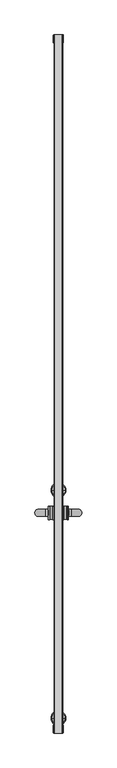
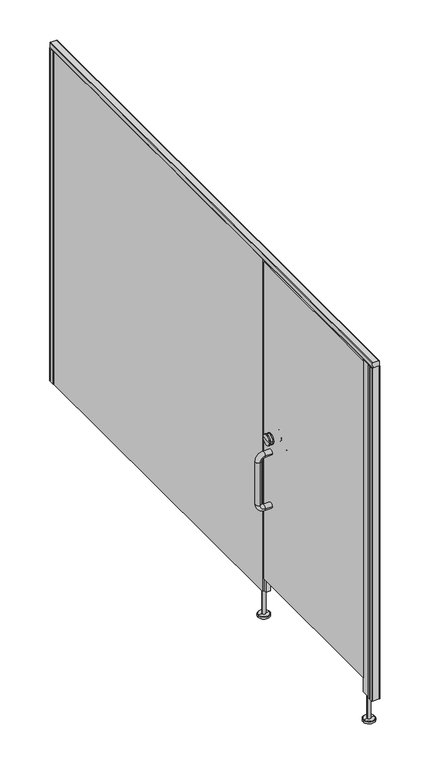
"""IFC4 building model written with IfcOpenShell, lengths in millimetres: proxy geometry, Partition_EuroStyle-Bradley_Corp-ADA_STD_Alcove-LOFT : Partition_EuroStyle-Bradley_Corp-ADA_STD_Alcove-LOFT."""

from ifc_helpers import new_model, si_unit, point, frame, frame_2d, origin, place, context, project, spatial, polyline, circle_curve, ellipse_curve, trimmed, segment, composite_curve, outline, extrude, source, transform, mapped, element, save
from ifc_brep_helpers import plane_surface, cylinder_surface, revolved_surface, advanced_brep


def specialty_equipment_249e6da1(model_context):
    return source(origin(), model_context, "Body", "SolidModel", [
        advanced_brep(
        [(1524.0, -2031.8, 975.0), (1524.0, -2001.8, 975.0), (1524.0, -2031.8, 679.0), (1524.0, -2001.8, 679.0), (1488.0, -2001.8, 975.0), (1488.0, -2031.8, 975.0), (1458.0, -2001.8, 945.0), (1458.0, -2001.8, 709.0), (1458.0, -2031.8, 709.0), (1458.0, -2031.8, 945.0), (1488.0, -2001.8, 679.0), (1488.0, -2031.8, 679.0)],
        [
            (0, 1, circle_curve(frame((1524.0, -2016.8, 975.0), z_axis=(1.0, 0.0, 0.0), x_axis=(0.0, 1.0, 0.0)), 15.0)),
            (1, 0, circle_curve(frame((1524.0, -2016.8, 975.0), z_axis=(1.0, 0.0, 0.0), x_axis=(0.0, 1.0, 0.0)), 15.0)),
            (2, 3, circle_curve(frame((1524.0, -2016.8, 679.0), z_axis=(1.0, 0.0, 0.0), x_axis=(0.0, 1.0, 0.0)), 15.0)),
            (3, 2, circle_curve(frame((1524.0, -2016.8, 679.0), z_axis=(1.0, 0.0, 0.0), x_axis=(0.0, 1.0, 0.0)), 15.0)),
            (1, 4),
            (4, 5, circle_curve(frame((1488.0, -2016.8, 975.0), z_axis=(1.0, 0.0, 0.0), x_axis=(0.0, 1.0, 0.0)), 15.0)),
            (5, 0),
            (5, 4, circle_curve(frame((1488.0, -2016.8, 975.0), z_axis=(1.0, 0.0, 0.0), x_axis=(0.0, 1.0, 0.0)), 15.0)),
            (6, 7),
            (7, 8, circle_curve(frame((1458.0, -2016.8, 709.0), z_axis=(0.0, 0.0, 1.0), x_axis=(0.0, 1.0, 0.0)), 15.0)),
            (8, 9),
            (9, 6, circle_curve(frame((1458.0, -2016.8, 945.0), z_axis=(0.0, 0.0, -1.0), x_axis=(0.0, 1.0, 0.0)), 15.0)),
            (8, 7, circle_curve(frame((1458.0, -2016.8, 709.0), z_axis=(0.0, 0.0, 1.0), x_axis=(0.0, 1.0, 0.0)), 15.0)),
            (6, 9, circle_curve(frame((1458.0, -2016.8, 945.0), z_axis=(0.0, 0.0, -1.0), x_axis=(0.0, 1.0, 0.0)), 15.0)),
            (10, 3),
            (2, 11),
            (11, 10, circle_curve(frame((1488.0, -2016.8, 679.0), z_axis=(1.0, 0.0, 0.0), x_axis=(0.0, 1.0, 0.0)), 15.0)),
            (10, 11, circle_curve(frame((1488.0, -2016.8, 679.0), z_axis=(1.0, 0.0, 0.0), x_axis=(0.0, 1.0, 0.0)), 15.0)),
            (9, 5, circle_curve(frame((1488.0, -2031.8, 945.0), z_axis=(0.0, 1.0, 0.0), x_axis=(0.0, 0.0, 1.0)), 30.0)),
            (4, 6, circle_curve(frame((1488.0, -2001.8, 945.0), z_axis=(0.0, -1.0, 0.0), x_axis=(0.0, 0.0, 1.0)), 30.0)),
            (11, 8, circle_curve(frame((1488.0, -2031.8, 709.0), z_axis=(0.0, 1.0, 0.0), x_axis=(-1.0, 0.0, 0.0)), 30.0)),
            (7, 10, circle_curve(frame((1488.0, -2001.8, 709.0), z_axis=(0.0, -1.0, 0.0), x_axis=(-1.0, 0.0, 0.0)), 30.0)),
        ],
        [
            plane_surface(frame((1524.0, -2016.8, 975.0), z_axis=(1.0, 0.0, 0.0), x_axis=(0.0, 1.0, 0.0))),
            plane_surface(frame((1524.0, -2016.8, 679.0), z_axis=(1.0, 0.0, 0.0), x_axis=(0.0, 1.0, 0.0))),
            cylinder_surface(frame((1524.0, -2016.8, 975.0), z_axis=(1.0, 0.0, 0.0), x_axis=(0.0, 1.0, 0.0)), 15.0),
            cylinder_surface(frame((1458.0, -2016.8, 945.0), z_axis=(0.0, 0.0, 1.0), x_axis=(0.0, 1.0, 0.0)), 15.0),
            cylinder_surface(frame((1488.0, -2016.8, 679.0), z_axis=(-1.0, 0.0, 0.0), x_axis=(0.0, 1.0, 0.0)), 15.0),
            revolved_surface(trimmed(ellipse_curve(frame((1488.0, -2016.8, 975.0), z_axis=(-1.0, 0.0, 0.0), x_axis=(0.0, 1.0, 0.0)), 15.0, 15.0), [point((1488.0, -2031.8, 975.0))], [point((1488.0, -2001.8, 975.0))], True, "CARTESIAN"), (1488.0, -2016.8, 945.0), (0.0, 1.0, 0.0)),
            revolved_surface(trimmed(ellipse_curve(frame((1488.0, -2016.8, 975.0), z_axis=(-1.0, 0.0, 0.0), x_axis=(0.0, 1.0, 0.0)), 15.0, 15.0), [point((1488.0, -2001.8, 975.0))], [point((1488.0, -2031.8, 975.0))], True, "CARTESIAN"), (1488.0, -2016.8, 945.0), (0.0, 1.0, 0.0)),
            revolved_surface(trimmed(ellipse_curve(frame((1458.0, -2016.8, 709.0), z_axis=(0.0, 0.0, -1.0), x_axis=(0.0, 1.0, 0.0)), 15.0, 15.0), [point((1458.0, -2031.8, 709.0))], [point((1458.0, -2001.8, 709.0))], True, "CARTESIAN"), (1488.0, -2016.8, 709.0), (0.0, 1.0, 0.0)),
            revolved_surface(trimmed(ellipse_curve(frame((1458.0, -2016.8, 709.0), z_axis=(0.0, 0.0, -1.0), x_axis=(0.0, 1.0, 0.0)), 15.0, 15.0), [point((1458.0, -2001.8, 709.0))], [point((1458.0, -2031.8, 709.0))], True, "CARTESIAN"), (1488.0, -2016.8, 709.0), (0.0, 1.0, 0.0)),
        ],
        [
            (0, [[1, 2]]),
            (1, [[3, 4]]),
            (2, [[5, 6, 7, -2]]),
            (2, [[-7, 8, -5, -1]]),
            (3, [[9, 10, 11, 12]]),
            (3, [[-11, 13, -9, 14]]),
            (4, [[15, -3, 16, 17]]),
            (4, [[-16, -4, -15, 18]]),
            (5, [[-12, 19, -6, 20]]),
            (6, [[-14, -20, -8, -19]]),
            (7, [[-17, 21, -10, 22]]),
            (8, [[-18, -22, -13, -21]]),
        ],
    ),
        advanced_brep(
        [(1560.0203251, -2031.8, 975.0), (1560.0203251, -2001.8, 975.0), (1560.0203251, -2031.8, 679.0), (1560.0203251, -2001.8, 679.0), (1596.0203251, -2031.8, 975.0), (1596.0203251, -2001.8, 975.0), (1626.0203251, -2001.8, 945.0), (1626.0203251, -2031.8, 945.0), (1626.0203251, -2031.8, 709.0), (1626.0203251, -2001.8, 709.0), (1596.0203251, -2001.8, 679.0), (1596.0203251, -2031.8, 679.0)],
        [
            (0, 1, circle_curve(frame((1560.0203251, -2016.8, 975.0), z_axis=(-1.0, 0.0, 0.0), x_axis=(0.0, 1.0, 0.0)), 15.0)),
            (1, 0, circle_curve(frame((1560.0203251, -2016.8, 975.0), z_axis=(-1.0, 0.0, 0.0), x_axis=(0.0, 1.0, 0.0)), 15.0)),
            (2, 3, circle_curve(frame((1560.0203251, -2016.8, 679.0), z_axis=(-1.0, 0.0, 0.0), x_axis=(0.0, 1.0, 0.0)), 15.0)),
            (3, 2, circle_curve(frame((1560.0203251, -2016.8, 679.0), z_axis=(-1.0, 0.0, 0.0), x_axis=(0.0, 1.0, 0.0)), 15.0)),
            (0, 4),
            (4, 5, circle_curve(frame((1596.0203251, -2016.8, 975.0), z_axis=(-1.0, 0.0, 0.0), x_axis=(0.0, 1.0, 0.0)), 15.0)),
            (5, 1),
            (5, 4, circle_curve(frame((1596.0203251, -2016.8, 975.0), z_axis=(-1.0, 0.0, 0.0), x_axis=(0.0, 1.0, 0.0)), 15.0)),
            (6, 7, circle_curve(frame((1626.0203251, -2016.8, 945.0), z_axis=(0.0, 0.0, -1.0), x_axis=(0.0, 1.0, 0.0)), 15.0)),
            (7, 8),
            (8, 9, circle_curve(frame((1626.0203251, -2016.8, 709.0), z_axis=(0.0, 0.0, 1.0), x_axis=(0.0, 1.0, 0.0)), 15.0)),
            (9, 6),
            (7, 6, circle_curve(frame((1626.0203251, -2016.8, 945.0), z_axis=(0.0, 0.0, -1.0), x_axis=(0.0, 1.0, 0.0)), 15.0)),
            (9, 8, circle_curve(frame((1626.0203251, -2016.8, 709.0), z_axis=(0.0, 0.0, 1.0), x_axis=(0.0, 1.0, 0.0)), 15.0)),
            (10, 11, circle_curve(frame((1596.0203251, -2016.8, 679.0), z_axis=(-1.0, 0.0, 0.0), x_axis=(0.0, 1.0, 0.0)), 15.0)),
            (11, 2),
            (3, 10),
            (11, 10, circle_curve(frame((1596.0203251, -2016.8, 679.0), z_axis=(-1.0, 0.0, 0.0), x_axis=(0.0, 1.0, 0.0)), 15.0)),
            (6, 5, circle_curve(frame((1596.0203251, -2001.8, 945.0), z_axis=(0.0, -1.0, 0.0), x_axis=(0.0, 0.0, 1.0)), 30.0)),
            (4, 7, circle_curve(frame((1596.0203251, -2031.8, 945.0), z_axis=(0.0, 1.0, 0.0), x_axis=(0.0, 0.0, 1.0)), 30.0)),
            (10, 9, circle_curve(frame((1596.0203251, -2001.8, 709.0), z_axis=(0.0, -1.0, 0.0), x_axis=(1.0, 0.0, 0.0)), 30.0)),
            (8, 11, circle_curve(frame((1596.0203251, -2031.8, 709.0), z_axis=(0.0, 1.0, 0.0), x_axis=(1.0, 0.0, 0.0)), 30.0)),
        ],
        [
            plane_surface(frame((1560.0203251, -2016.8, 975.0), z_axis=(-1.0, 0.0, 0.0), x_axis=(0.0, 1.0, 0.0))),
            plane_surface(frame((1560.0203251, -2016.8, 679.0), z_axis=(-1.0, 0.0, 0.0), x_axis=(0.0, 1.0, 0.0))),
            cylinder_surface(frame((1560.0203251, -2016.8, 975.0), z_axis=(-1.0, 0.0, 0.0), x_axis=(0.0, 1.0, 0.0)), 15.0),
            cylinder_surface(frame((1626.0203251, -2016.8, 945.0), z_axis=(0.0, 0.0, 1.0), x_axis=(0.0, 1.0, 0.0)), 15.0),
            cylinder_surface(frame((1596.0203251, -2016.8, 679.0), z_axis=(1.0, 0.0, 0.0), x_axis=(0.0, 1.0, 0.0)), 15.0),
            revolved_surface(trimmed(ellipse_curve(frame((1596.0203251, -2016.8, 975.0), z_axis=(-1.0, 0.0, 0.0), x_axis=(0.0, 1.0, 0.0)), 15.0, 15.0), [point((1596.0203251, -2031.8, 975.0))], [point((1596.0203251, -2001.8, 975.0))], True, "CARTESIAN"), (1596.0203251, -2016.8, 945.0), (0.0, 1.0, 0.0)),
            revolved_surface(trimmed(ellipse_curve(frame((1596.0203251, -2016.8, 975.0), z_axis=(-1.0, 0.0, 0.0), x_axis=(0.0, 1.0, 0.0)), 15.0, 15.0), [point((1596.0203251, -2001.8, 975.0))], [point((1596.0203251, -2031.8, 975.0))], True, "CARTESIAN"), (1596.0203251, -2016.8, 945.0), (0.0, 1.0, 0.0)),
            revolved_surface(trimmed(ellipse_curve(frame((1626.0203251, -2016.8, 709.0), z_axis=(0.0, 0.0, 1.0), x_axis=(0.0, 1.0, 0.0)), 15.0, 15.0), [point((1626.0203251, -2031.8, 709.0))], [point((1626.0203251, -2001.8, 709.0))], True, "CARTESIAN"), (1596.0203251, -2016.8, 709.0), (0.0, 1.0, 0.0)),
            revolved_surface(trimmed(ellipse_curve(frame((1626.0203251, -2016.8, 709.0), z_axis=(0.0, 0.0, 1.0), x_axis=(0.0, 1.0, 0.0)), 15.0, 15.0), [point((1626.0203251, -2001.8, 709.0))], [point((1626.0203251, -2031.8, 709.0))], True, "CARTESIAN"), (1596.0203251, -2016.8, 709.0), (0.0, 1.0, 0.0)),
        ],
        [
            (0, [[1, 2]]),
            (1, [[3, 4]]),
            (2, [[-1, 5, 6, 7]]),
            (2, [[-2, -7, 8, -5]]),
            (3, [[9, 10, 11, 12]]),
            (3, [[13, -12, 14, -10]]),
            (4, [[15, 16, -4, 17]]),
            (4, [[18, -17, -3, -16]]),
            (5, [[19, -6, 20, -9]]),
            (6, [[-20, -8, -19, -13]]),
            (7, [[21, -11, 22, -15]]),
            (8, [[-22, -14, -21, -18]]),
        ],
    ),
        advanced_brep(
        [(1524.0203251, -2045.375, 1050.0), (1524.0203251, -1988.225, 1050.0), (1524.0203251, -2016.8, 1050.0), (1519.2578251, -2045.375, 1050.0), (1519.2578251, -1988.225, 1050.0), (1500.2078251, -2045.375, 1050.0), (1500.2078251, -1988.225, 1050.0), (1504.9703251, -1988.225, 1050.0), (1504.9703251, -2045.375, 1050.0), (1506.5578251, -1989.8125, 1050.0), (1506.5578251, -2043.7875, 1050.0), (1517.6703251, -1989.8125, 1050.0), (1517.6703251, -2043.7875, 1050.0), (1498.6203251, -2016.8, 1050.0)],
        [
            (0, 1, circle_curve(frame((1524.0203251, -2016.8, 1050.0), z_axis=(1.0, 0.0, 0.0), x_axis=(0.0, 1.0, 0.0)), 28.575)),
            (1, 2),
            (2, 0),
            (1, 0, circle_curve(frame((1524.0203251, -2016.8, 1050.0), z_axis=(1.0, 0.0, 0.0), x_axis=(0.0, 1.0, 0.0)), 28.575)),
            (3, 4, circle_curve(frame((1519.2578251, -2016.8, 1050.0), z_axis=(1.0, 0.0, 0.0), x_axis=(0.0, 1.0, 0.0)), 28.575)),
            (4, 1),
            (0, 3),
            (4, 3, circle_curve(frame((1519.2578251, -2016.8, 1050.0), z_axis=(1.0, 0.0, 0.0), x_axis=(0.0, 1.0, 0.0)), 28.575)),
            (5, 6, circle_curve(frame((1500.2078251, -2016.8, 1050.0), z_axis=(1.0, 0.0, 0.0), x_axis=(0.0, 1.0, 0.0)), 28.575)),
            (6, 7),
            (7, 8, circle_curve(frame((1504.9703251, -2016.8, 1050.0), z_axis=(-1.0, 0.0, 0.0), x_axis=(0.0, 1.0, 0.0)), 28.575)),
            (8, 5),
            (6, 5, circle_curve(frame((1500.2078251, -2016.8, 1050.0), z_axis=(1.0, 0.0, 0.0), x_axis=(0.0, 1.0, 0.0)), 28.575)),
            (8, 7, circle_curve(frame((1504.9703251, -2016.8, 1050.0), z_axis=(-1.0, 0.0, 0.0), x_axis=(0.0, 1.0, 0.0)), 28.575)),
            (7, 9, circle_curve(frame((1506.5578251, -1988.225, 1050.0), z_axis=(0.0, 0.0, 1.0), x_axis=(0.0, 1.0, 0.0)), 1.5875)),
            (9, 10, circle_curve(frame((1506.5578251, -2016.8, 1050.0), z_axis=(-1.0, 0.0, 0.0), x_axis=(0.0, 1.0, 0.0)), 26.9875)),
            (10, 8, circle_curve(frame((1506.5578251, -2045.375, 1050.0), z_axis=(0.0, 0.0, 1.0), x_axis=(0.0, -1.0, 0.0)), 1.5875)),
            (10, 9, circle_curve(frame((1506.5578251, -2016.8, 1050.0), z_axis=(-1.0, 0.0, 0.0), x_axis=(0.0, 1.0, 0.0)), 26.9875)),
            (9, 11),
            (11, 12, circle_curve(frame((1517.6703251, -2016.8, 1050.0), z_axis=(-1.0, 0.0, 0.0), x_axis=(0.0, 1.0, 0.0)), 26.9875)),
            (12, 10),
            (12, 11, circle_curve(frame((1517.6703251, -2016.8, 1050.0), z_axis=(-1.0, 0.0, 0.0), x_axis=(0.0, 1.0, 0.0)), 26.9875)),
            (11, 4, circle_curve(frame((1517.6703251, -1988.225, 1050.0), z_axis=(0.0, 0.0, 1.0), x_axis=(0.0, 1.0, 0.0)), 1.5875)),
            (3, 12, circle_curve(frame((1517.6703251, -2045.375, 1050.0), z_axis=(0.0, 0.0, 1.0), x_axis=(0.0, -1.0, 0.0)), 1.5875)),
            (13, 6, circle_curve(frame((1690.0948544, -2013.1058766, 1050.0), z_axis=(0.0, 0.0, -1.0), x_axis=(0.0, 1.0, 0.0)), 191.5101613)),
            (5, 13, circle_curve(frame((1690.0948544, -2020.4941234, 1050.0), z_axis=(0.0, 0.0, -1.0), x_axis=(0.0, -1.0, 0.0)), 191.5101613)),
        ],
        [
            plane_surface(frame((1524.0203251, -2016.8, 1050.0), z_axis=(1.0, 0.0, 0.0), x_axis=(0.0, 1.0, 0.0))),
            cylinder_surface(frame((1524.0203251, -2016.8, 1050.0), z_axis=(-1.0, 0.0, 0.0), x_axis=(0.0, 1.0, 0.0)), 28.575),
            revolved_surface(trimmed(ellipse_curve(frame((1506.5578251, -1988.225, 1050.0), z_axis=(0.0, 0.0, -1.0), x_axis=(0.0, 1.0, 0.0)), 1.5875, 1.5875), [point((1506.5578251, -1989.8125, 1050.0))], [point((1504.9703251, -1988.225, 1050.0))], True, "CARTESIAN"), (1524.0203251, -2016.8, 1050.0), (-1.0, 0.0, 0.0)),
            cylinder_surface(frame((1524.0203251, -2016.8, 1050.0), z_axis=(-1.0, 0.0, 0.0), x_axis=(0.0, 1.0, 0.0)), 26.9875),
            revolved_surface(trimmed(ellipse_curve(frame((1517.6703251, -1988.225, 1050.0), z_axis=(0.0, 0.0, -1.0), x_axis=(0.0, 1.0, 0.0)), 1.5875, 1.5875), [point((1519.2578251, -1988.225, 1050.0))], [point((1517.6703251, -1989.8125, 1050.0))], True, "CARTESIAN"), (1524.0203251, -2016.8, 1050.0), (-1.0, 0.0, 0.0)),
            revolved_surface(trimmed(ellipse_curve(frame((1690.0948544, -2013.1058766, 1050.0), z_axis=(0.0, 0.0, 1.0), x_axis=(0.0, 1.0, 0.0)), 191.5101613, 191.5101613), [point((1500.2078251, -1988.225, 1050.0))], [point((1498.6203251, -2016.8, 1050.0))], True, "CARTESIAN"), (1524.0203251, -2016.8, 1050.0), (-1.0, 0.0, 0.0)),
        ],
        [
            (0, [[1, 2, 3]]),
            (0, [[4, -3, -2]]),
            (1, [[5, 6, -1, 7]]),
            (1, [[8, -7, -4, -6]]),
            (1, [[9, 10, 11, 12]]),
            (1, [[13, -12, 14, -10]]),
            (2, [[-11, 15, 16, 17]]),
            (2, [[-14, -17, 18, -15]]),
            (3, [[-16, 19, 20, 21]]),
            (3, [[-18, -21, 22, -19]]),
            (4, [[-20, 23, -5, 24]]),
            (4, [[-22, -24, -8, -23]]),
            (5, [[25, -9, 26]]),
            (5, [[-26, -13, -25]]),
        ],
    ),
        advanced_brep(
        [(1560.0203251, -2016.8, 1050.0), (1560.0203251, -1988.225, 1050.0), (1560.0203251, -2045.375, 1050.0), (1564.7828251, -1988.225, 1050.0), (1564.7828251, -2045.375, 1050.0), (1579.0703251, -2045.375, 1050.0), (1579.0703251, -1988.225, 1050.0), (1583.8328251, -1988.225, 1050.0), (1583.8328251, -2045.375, 1050.0), (1577.4828251, -2043.7875, 1050.0), (1577.4828251, -1989.8125, 1050.0), (1566.3703251, -2043.7875, 1050.0), (1566.3703251, -1989.8125, 1050.0), (1585.4203251, -2016.8, 1050.0)],
        [
            (0, 1),
            (1, 2, circle_curve(frame((1560.0203251, -2016.8, 1050.0), z_axis=(-1.0, 0.0, 0.0), x_axis=(0.0, 1.0, 0.0)), 28.575)),
            (2, 0),
            (2, 1, circle_curve(frame((1560.0203251, -2016.8, 1050.0), z_axis=(-1.0, 0.0, 0.0), x_axis=(0.0, 1.0, 0.0)), 28.575)),
            (1, 3),
            (3, 4, circle_curve(frame((1564.7828251, -2016.8, 1050.0), z_axis=(-1.0, 0.0, 0.0), x_axis=(0.0, 1.0, 0.0)), 28.575)),
            (4, 2),
            (4, 3, circle_curve(frame((1564.7828251, -2016.8, 1050.0), z_axis=(-1.0, 0.0, 0.0), x_axis=(0.0, 1.0, 0.0)), 28.575)),
            (5, 6, circle_curve(frame((1579.0703251, -2016.8, 1050.0), z_axis=(1.0, 0.0, 0.0), x_axis=(0.0, 1.0, 0.0)), 28.575)),
            (6, 7),
            (7, 8, circle_curve(frame((1583.8328251, -2016.8, 1050.0), z_axis=(-1.0, 0.0, 0.0), x_axis=(0.0, 1.0, 0.0)), 28.575)),
            (8, 5),
            (6, 5, circle_curve(frame((1579.0703251, -2016.8, 1050.0), z_axis=(1.0, 0.0, 0.0), x_axis=(0.0, 1.0, 0.0)), 28.575)),
            (8, 7, circle_curve(frame((1583.8328251, -2016.8, 1050.0), z_axis=(-1.0, 0.0, 0.0), x_axis=(0.0, 1.0, 0.0)), 28.575)),
            (9, 10, circle_curve(frame((1577.4828251, -2016.8, 1050.0), z_axis=(1.0, 0.0, 0.0), x_axis=(0.0, 1.0, 0.0)), 26.9875)),
            (10, 6, circle_curve(frame((1577.4828251, -1988.225, 1050.0), z_axis=(0.0, 0.0, 1.0), x_axis=(0.0, 1.0, 0.0)), 1.5875)),
            (5, 9, circle_curve(frame((1577.4828251, -2045.375, 1050.0), z_axis=(0.0, 0.0, 1.0), x_axis=(0.0, -1.0, 0.0)), 1.5875)),
            (10, 9, circle_curve(frame((1577.4828251, -2016.8, 1050.0), z_axis=(1.0, 0.0, 0.0), x_axis=(0.0, 1.0, 0.0)), 26.9875)),
            (11, 12, circle_curve(frame((1566.3703251, -2016.8, 1050.0), z_axis=(1.0, 0.0, 0.0), x_axis=(0.0, 1.0, 0.0)), 26.9875)),
            (12, 10),
            (9, 11),
            (12, 11, circle_curve(frame((1566.3703251, -2016.8, 1050.0), z_axis=(1.0, 0.0, 0.0), x_axis=(0.0, 1.0, 0.0)), 26.9875)),
            (3, 12, circle_curve(frame((1566.3703251, -1988.225, 1050.0), z_axis=(0.0, 0.0, 1.0), x_axis=(0.0, 1.0, 0.0)), 1.5875)),
            (11, 4, circle_curve(frame((1566.3703251, -2045.375, 1050.0), z_axis=(0.0, 0.0, 1.0), x_axis=(0.0, -1.0, 0.0)), 1.5875)),
            (7, 13, circle_curve(frame((1393.9457959, -2013.1058766, 1050.0), z_axis=(0.0, 0.0, -1.0), x_axis=(0.0, 1.0, 0.0)), 191.5101613)),
            (13, 8, circle_curve(frame((1393.9457959, -2020.4941234, 1050.0), z_axis=(0.0, 0.0, -1.0), x_axis=(0.0, -1.0, 0.0)), 191.5101613)),
        ],
        [
            plane_surface(frame((1560.0203251, -2016.8, 1050.0), z_axis=(-1.0, 0.0, 0.0), x_axis=(0.0, 1.0, 0.0))),
            cylinder_surface(frame((1560.0203251, -2016.8, 1050.0), z_axis=(-1.0, 0.0, 0.0), x_axis=(0.0, 1.0, 0.0)), 28.575),
            revolved_surface(trimmed(ellipse_curve(frame((1577.4828251, -1988.225, 1050.0), z_axis=(0.0, 0.0, -1.0), x_axis=(0.0, 1.0, 0.0)), 1.5875, 1.5875), [point((1579.0703251, -1988.225, 1050.0))], [point((1577.4828251, -1989.8125, 1050.0))], True, "CARTESIAN"), (1560.0203251, -2016.8, 1050.0), (-1.0, 0.0, 0.0)),
            cylinder_surface(frame((1560.0203251, -2016.8, 1050.0), z_axis=(-1.0, 0.0, 0.0), x_axis=(0.0, 1.0, 0.0)), 26.9875),
            revolved_surface(trimmed(ellipse_curve(frame((1566.3703251, -1988.225, 1050.0), z_axis=(0.0, 0.0, -1.0), x_axis=(0.0, 1.0, 0.0)), 1.5875, 1.5875), [point((1566.3703251, -1989.8125, 1050.0))], [point((1564.7828251, -1988.225, 1050.0))], True, "CARTESIAN"), (1560.0203251, -2016.8, 1050.0), (-1.0, 0.0, 0.0)),
            revolved_surface(trimmed(ellipse_curve(frame((1393.9457959, -2013.1058766, 1050.0), z_axis=(0.0, 0.0, 1.0), x_axis=(0.0, 1.0, 0.0)), 191.5101613, 191.5101613), [point((1585.4203251, -2016.8, 1050.0))], [point((1583.8328251, -1988.225, 1050.0))], True, "CARTESIAN"), (1560.0203251, -2016.8, 1050.0), (-1.0, 0.0, 0.0)),
        ],
        [
            (0, [[1, 2, 3]]),
            (0, [[-3, 4, -1]]),
            (1, [[-2, 5, 6, 7]]),
            (1, [[-4, -7, 8, -5]]),
            (1, [[9, 10, 11, 12]]),
            (1, [[13, -12, 14, -10]]),
            (2, [[15, 16, -9, 17]]),
            (2, [[18, -17, -13, -16]]),
            (3, [[19, 20, -15, 21]]),
            (3, [[22, -21, -18, -20]]),
            (4, [[-6, 23, -19, 24]]),
            (4, [[-8, -24, -22, -23]]),
            (5, [[-11, 25, 26]]),
            (5, [[-14, -26, -25]]),
        ],
    ),
        extrude(outline(polyline([(1524.0, -2862.4032348), (1524.0, -1953.3), (1560.0203251, -1953.3), (1560.0203251, -2862.4032348), (1524.0, -2862.4032348)])), frame((0.0, 0.0, 228.6), z_axis=(0.0, 0.0, 1.0), x_axis=(1.0, 0.0, 0.0)), (0.0, 0.0, 1.0), 1767.4),
        advanced_brep(
        [(1533.0101629, -2882.9018313, 150.0000008), (1551.0101623, -2882.9018313, 150.0000008), (1551.0101623, -2882.9018313, 12.0000001), (1533.0101629, -2882.9018313, 12.0000001), (1542.0101626, -2882.9018313, 150.0000008), (1511.0101636, -2882.9018313, 0.0), (1573.0101615, -2882.9018313, 0.0), (1542.0101626, -2882.9018313, 0.0), (1511.0101636, -2882.9018313, 10.0000001), (1573.0101615, -2882.9018313, 10.0000001), (1513.0125756, -2882.9018313, 12.0000001), (1571.0077496, -2882.9018313, 12.0000001)],
        [
            (0, 1, circle_curve(frame((1542.0101626, -2882.9018313, 150.0000008), z_axis=(0.0, 0.0, -1.0), x_axis=(1.0, 0.0, 0.0)), 8.9999997)),
            (1, 2),
            (2, 3, circle_curve(frame((1542.0101626, -2882.9018313, 12.0000001), z_axis=(0.0, 0.0, 1.0), x_axis=(1.0, 0.0, 0.0)), 8.9999997)),
            (3, 0),
            (1, 0, circle_curve(frame((1542.0101626, -2882.9018313, 150.0000008), z_axis=(0.0, 0.0, -1.0), x_axis=(1.0, 0.0, 0.0)), 8.9999997)),
            (3, 2, circle_curve(frame((1542.0101626, -2882.9018313, 12.0000001), z_axis=(0.0, 0.0, 1.0), x_axis=(1.0, 0.0, 0.0)), 8.9999997)),
            (4, 1),
            (0, 4),
            (5, 6, circle_curve(frame((1542.0101626, -2882.9018313, 0.0), z_axis=(0.0, 0.0, -1.0), x_axis=(1.0, 0.0, 0.0)), 30.9999989)),
            (6, 7),
            (7, 5),
            (6, 5, circle_curve(frame((1542.0101626, -2882.9018313, 0.0), z_axis=(0.0, 0.0, -1.0), x_axis=(1.0, 0.0, 0.0)), 30.9999989)),
            (8, 9, circle_curve(frame((1542.0101626, -2882.9018313, 10.0000001), z_axis=(0.0, 0.0, -1.0), x_axis=(1.0, 0.0, 0.0)), 30.9999989)),
            (9, 6),
            (5, 8),
            (9, 8, circle_curve(frame((1542.0101626, -2882.9018313, 10.0000001), z_axis=(0.0, 0.0, -1.0), x_axis=(1.0, 0.0, 0.0)), 30.9999989)),
            (10, 11, circle_curve(frame((1542.0101626, -2882.9018313, 12.0000001), z_axis=(0.0, 0.0, -1.0), x_axis=(1.0, 0.0, 0.0)), 28.997587)),
            (11, 9),
            (8, 10),
            (11, 10, circle_curve(frame((1542.0101626, -2882.9018313, 12.0000001), z_axis=(0.0, 0.0, -1.0), x_axis=(1.0, 0.0, 0.0)), 28.997587)),
            (2, 11),
            (10, 3),
        ],
        [
            cylinder_surface(frame((1542.0101626, -2882.9018313, 0.0), z_axis=(0.0, 0.0, 1.0), x_axis=(1.0, 0.0, 0.0)), 8.9999997),
            plane_surface(frame((1542.0101626, -2882.9018313, 150.0000008), z_axis=(0.0, 0.0, 1.0), x_axis=(1.0, 0.0, 0.0))),
            plane_surface(frame((1542.0101626, -2882.9018313, 0.0), z_axis=(0.0, 0.0, -1.0), x_axis=(1.0, 0.0, 0.0))),
            cylinder_surface(frame((1542.0101626, -2882.9018313, 0.0), z_axis=(0.0, 0.0, 1.0), x_axis=(1.0, 0.0, 0.0)), 30.9999989),
            revolved_surface(polyline([(1573.0101615, -2882.9018313, 10.0000001), (1571.0077496, -2882.9018313, 12.0000001)]), (1542.0101626, -2882.9018313, 0.0), (0.0, 0.0, 1.0)),
            plane_surface(frame((1542.0101626, -2882.9018313, 12.0000001), z_axis=(0.0, 0.0, 1.0), x_axis=(1.0, 0.0, 0.0))),
        ],
        [
            (0, [[1, 2, 3, 4]]),
            (0, [[5, -4, 6, -2]]),
            (1, [[7, -1, 8]]),
            (1, [[-8, -5, -7]]),
            (2, [[9, 10, 11]]),
            (2, [[12, -11, -10]]),
            (3, [[13, 14, -9, 15]]),
            (3, [[16, -15, -12, -14]]),
            (4, [[17, 18, -13, 19]]),
            (4, [[20, -19, -16, -18]]),
            (5, [[-3, 21, -17, 22]]),
            (5, [[-6, -22, -20, -21]]),
        ],
    ),
        extrude(outline(composite_curve([segment(polyline([(1521.518717, -2913.8999998), (1523.0173026, -2913.8999998)]), True, "CONTINUOUS"), segment(trimmed(circle_curve(frame_2d((1523.0137352, -2914.8990918)), 0.9990984), [point((1523.0173026, -2913.8999998))], [point((1523.4873879, -2915.7787798))], False, "CARTESIAN"), True, "CONTINUOUS"), segment(polyline([(1523.4873879, -2915.7787798), (1523.3662779, -2923.0424298)]), True, "CONTINUOUS"), segment(trimmed(circle_curve(frame_2d((1522.848732, -2923.8999449)), 1.0015917), [point((1523.3662779, -2923.0424298))], [point((1523.3373979, -2924.7742398))], False, "CARTESIAN"), True, "CONTINUOUS"), segment(polyline([(1523.3373979, -2924.7742398), (1523.0433424, -2942.4104531)]), True, "CONTINUOUS"), segment(trimmed(circle_curve(frame_2d((1525.0435342, -2942.3997796)), 2.0002204), [point((1523.0433424, -2942.4104531))], [point((1525.0435342, -2944.4))], True, "CARTESIAN"), True, "CONTINUOUS"), segment(polyline([(1525.0435342, -2944.4), (1558.9278332, -2944.4)]), True, "CONTINUOUS"), segment(trimmed(circle_curve(frame_2d((1558.9768528, -2942.4009061)), 1.9996948), [point((1558.9278332, -2944.4))], [point((1560.9765475, -2942.4))], True, "CARTESIAN"), True, "CONTINUOUS"), segment(polyline([(1560.9765475, -2942.4), (1560.6824961, -2924.7739987)]), True, "CONTINUOUS"), segment(trimmed(circle_curve(frame_2d((1561.1715932, -2923.8999449)), 1.0015917), [point((1560.6824961, -2924.7739987))], [point((1560.6540473, -2923.0424298))], False, "CARTESIAN"), True, "CONTINUOUS"), segment(polyline([(1560.6540473, -2923.0424298), (1560.5329373, -2915.7787798)]), True, "CONTINUOUS"), segment(trimmed(circle_curve(frame_2d((1561.0065899, -2914.8990918)), 0.9990984), [point((1560.5329373, -2915.7787798))], [point((1561.0030225, -2913.8999998))], False, "CARTESIAN"), True, "CONTINUOUS"), segment(polyline([(1561.0030225, -2913.8999998), (1562.5016081, -2913.8999998), (1563.0099473, -2944.37082)]), True, "CONTINUOUS"), segment(trimmed(circle_curve(frame_2d((1560.9807672, -2944.37082)), 2.02918), [point((1563.0099473, -2944.37082))], [point((1560.9807672, -2946.4))], False, "CARTESIAN"), True, "CONTINUOUS"), segment(polyline([(1560.9807672, -2946.4), (1523.0395579, -2946.4)]), True, "CONTINUOUS"), segment(trimmed(circle_curve(frame_2d((1523.0395579, -2944.37082)), 2.02918), [point((1523.0395579, -2946.4))], [point((1521.0103779, -2944.37082))], False, "CARTESIAN"), True, "CONTINUOUS"), segment(polyline([(1521.0103779, -2944.37082), (1521.518717, -2913.8999998)]), True, "CONTINUOUS")], self_intersect=False)), frame((0.0, 0.0, 150.0), z_axis=(0.0, 0.0, 1.0), x_axis=(1.0, 0.0, 0.0)), (0.0, 0.0, 1.0), 1855.0),
        extrude(outline(polyline([(1524.0, -2936.400072), (1524.0, -2862.4032348), (1560.0203251, -2862.4032348), (1560.0203251, -2936.400072), (1524.0, -2936.400072)])), frame((0.0, 0.0, 150.0), z_axis=(0.0, 0.0, 1.0), x_axis=(1.0, 0.0, 0.0)), (0.0, 0.0, 1.0), 1855.0),
        extrude(outline(composite_curve([segment(polyline([(1521.518717, -32.5000002), (1521.0103779, -2.02918)]), True, "CONTINUOUS"), segment(trimmed(circle_curve(frame_2d((1523.0395579, -2.02918)), 2.02918), [point((1521.0103779, -2.02918))], [point((1523.0395579, 0.0))], False, "CARTESIAN"), True, "CONTINUOUS"), segment(polyline([(1523.0395579, 0.0), (1560.9807672, 0.0)]), True, "CONTINUOUS"), segment(trimmed(circle_curve(frame_2d((1560.9807672, -2.02918)), 2.02918), [point((1560.9807672, 0.0))], [point((1563.0099473, -2.02918))], False, "CARTESIAN"), True, "CONTINUOUS"), segment(polyline([(1563.0099473, -2.02918), (1562.5016081, -32.5000002), (1561.0030225, -32.5000002)]), True, "CONTINUOUS"), segment(trimmed(circle_curve(frame_2d((1561.0065899, -31.5009082)), 0.9990984), [point((1561.0030225, -32.5000002))], [point((1560.5329373, -30.6212202))], False, "CARTESIAN"), True, "CONTINUOUS"), segment(polyline([(1560.5329373, -30.6212202), (1560.6540473, -23.3575702)]), True, "CONTINUOUS"), segment(trimmed(circle_curve(frame_2d((1561.1715932, -22.5000551)), 1.0015917), [point((1560.6540473, -23.3575702))], [point((1560.6824961, -21.6260013))], False, "CARTESIAN"), True, "CONTINUOUS"), segment(polyline([(1560.6824961, -21.6260013), (1560.9765475, -4.0)]), True, "CONTINUOUS"), segment(trimmed(circle_curve(frame_2d((1558.9768528, -3.9990939)), 1.9996948), [point((1560.9765475, -4.0))], [point((1558.9278332, -2.0))], True, "CARTESIAN"), True, "CONTINUOUS"), segment(polyline([(1558.9278332, -2.0), (1525.0435342, -2.0)]), True, "CONTINUOUS"), segment(trimmed(circle_curve(frame_2d((1525.0435342, -4.0002204)), 2.0002204), [point((1525.0435342, -2.0))], [point((1523.0433424, -3.9895469))], True, "CARTESIAN"), True, "CONTINUOUS"), segment(polyline([(1523.0433424, -3.9895469), (1523.3373979, -21.6257602)]), True, "CONTINUOUS"), segment(trimmed(circle_curve(frame_2d((1522.848732, -22.5000551)), 1.0015917), [point((1523.3373979, -21.6257602))], [point((1523.3662779, -23.3575702))], False, "CARTESIAN"), True, "CONTINUOUS"), segment(polyline([(1523.3662779, -23.3575702), (1523.4873879, -30.6212202)]), True, "CONTINUOUS"), segment(trimmed(circle_curve(frame_2d((1523.0137352, -31.5009082)), 0.9990984), [point((1523.4873879, -30.6212202))], [point((1523.0173026, -32.5000002))], False, "CARTESIAN"), True, "CONTINUOUS"), segment(polyline([(1523.0173026, -32.5000002), (1521.518717, -32.5000002)]), True, "CONTINUOUS")], self_intersect=False)), frame((0.0, 0.0, 150.0), z_axis=(0.0, 0.0, 1.0), x_axis=(1.0, 0.0, 0.0)), (0.0, 0.0, 1.0), 1855.0),
        advanced_brep(
        [(1533.0101629, -1920.8766828, 150.0000008), (1551.0101623, -1920.8766828, 150.0000008), (1551.0101623, -1920.8766828, 12.0000001), (1533.0101629, -1920.8766828, 12.0000001), (1542.0101626, -1920.8766828, 150.0000008), (1511.0101636, -1920.8766828, 0.0), (1573.0101615, -1920.8766828, 0.0), (1542.0101626, -1920.8766828, 0.0), (1511.0101636, -1920.8766828, 10.0000001), (1573.0101615, -1920.8766828, 10.0000001), (1513.0125756, -1920.8766828, 12.0000001), (1571.0077496, -1920.8766828, 12.0000001)],
        [
            (0, 1, circle_curve(frame((1542.0101626, -1920.8766828, 150.0000008), z_axis=(0.0, 0.0, -1.0), x_axis=(1.0, 0.0, 0.0)), 8.9999997)),
            (1, 2),
            (2, 3, circle_curve(frame((1542.0101626, -1920.8766828, 12.0000001), z_axis=(0.0, 0.0, 1.0), x_axis=(1.0, 0.0, 0.0)), 8.9999997)),
            (3, 0),
            (1, 0, circle_curve(frame((1542.0101626, -1920.8766828, 150.0000008), z_axis=(0.0, 0.0, -1.0), x_axis=(1.0, 0.0, 0.0)), 8.9999997)),
            (3, 2, circle_curve(frame((1542.0101626, -1920.8766828, 12.0000001), z_axis=(0.0, 0.0, 1.0), x_axis=(1.0, 0.0, 0.0)), 8.9999997)),
            (4, 1),
            (0, 4),
            (5, 6, circle_curve(frame((1542.0101626, -1920.8766828, 0.0), z_axis=(0.0, 0.0, -1.0), x_axis=(1.0, 0.0, 0.0)), 30.9999989)),
            (6, 7),
            (7, 5),
            (6, 5, circle_curve(frame((1542.0101626, -1920.8766828, 0.0), z_axis=(0.0, 0.0, -1.0), x_axis=(1.0, 0.0, 0.0)), 30.9999989)),
            (8, 9, circle_curve(frame((1542.0101626, -1920.8766828, 10.0000001), z_axis=(0.0, 0.0, -1.0), x_axis=(1.0, 0.0, 0.0)), 30.9999989)),
            (9, 6),
            (5, 8),
            (9, 8, circle_curve(frame((1542.0101626, -1920.8766828, 10.0000001), z_axis=(0.0, 0.0, -1.0), x_axis=(1.0, 0.0, 0.0)), 30.9999989)),
            (10, 11, circle_curve(frame((1542.0101626, -1920.8766828, 12.0000001), z_axis=(0.0, 0.0, -1.0), x_axis=(1.0, 0.0, 0.0)), 28.997587)),
            (11, 9),
            (8, 10),
            (11, 10, circle_curve(frame((1542.0101626, -1920.8766828, 12.0000001), z_axis=(0.0, 0.0, -1.0), x_axis=(1.0, 0.0, 0.0)), 28.997587)),
            (2, 11),
            (10, 3),
        ],
        [
            cylinder_surface(frame((1542.0101626, -1920.8766828, 0.0), z_axis=(0.0, 0.0, 1.0), x_axis=(1.0, 0.0, 0.0)), 8.9999997),
            plane_surface(frame((1542.0101626, -1920.8766828, 150.0000008), z_axis=(0.0, 0.0, 1.0), x_axis=(1.0, 0.0, 0.0))),
            plane_surface(frame((1542.0101626, -1920.8766828, 0.0), z_axis=(0.0, 0.0, -1.0), x_axis=(1.0, 0.0, 0.0))),
            cylinder_surface(frame((1542.0101626, -1920.8766828, 0.0), z_axis=(0.0, 0.0, 1.0), x_axis=(1.0, 0.0, 0.0)), 30.9999989),
            revolved_surface(polyline([(1573.0101615, -1920.8766828, 10.0000001), (1571.0077496, -1920.8766828, 12.0000001)]), (1542.0101626, -1920.8766828, 0.0), (0.0, 0.0, 1.0)),
            plane_surface(frame((1542.0101626, -1920.8766828, 12.0000001), z_axis=(0.0, 0.0, 1.0), x_axis=(1.0, 0.0, 0.0))),
        ],
        [
            (0, [[1, 2, 3, 4]]),
            (0, [[5, -4, 6, -2]]),
            (1, [[7, -1, 8]]),
            (1, [[-8, -5, -7]]),
            (2, [[9, 10, 11]]),
            (2, [[12, -11, -10]]),
            (3, [[13, 14, -9, 15]]),
            (3, [[16, -15, -12, -14]]),
            (4, [[17, 18, -13, 19]]),
            (4, [[20, -19, -16, -18]]),
            (5, [[-3, 21, -17, 22]]),
            (5, [[-6, -22, -20, -21]]),
        ],
    ),
        extrude(outline(composite_curve([segment(polyline([(2032.9666591, 1524.0102076), (2005.7492965, 1524.4640181)]), True, "CONTINUOUS"), segment(trimmed(circle_curve(frame_2d((2005.762, 1525.2259122)), 0.762), [point((2005.7492965, 1524.4640181))], [point((2005.0, 1525.2259122))], False, "CARTESIAN"), True, "CONTINUOUS"), segment(polyline([(2005.0, 1525.2259122), (2005.0, 1558.763188)]), True, "CONTINUOUS"), segment(trimmed(circle_curve(frame_2d((2005.79375, 1558.763188)), 0.79375), [point((2005.0, 1558.763188))], [point((2005.7805172, 1559.5568277))], False, "CARTESIAN"), True, "CONTINUOUS"), segment(polyline([(2005.7805172, 1559.5568277), (2032.9666591, 1560.0101176)]), True, "CONTINUOUS"), segment(trimmed(circle_curve(frame_2d((2033.0000015, 1558.0103971)), 1.9999985), [point((2032.9666591, 1560.0101176))], [point((2035.0, 1558.0103971))], False, "CARTESIAN"), True, "CONTINUOUS"), segment(polyline([(2035.0, 1558.0103971), (2035.0, 1526.0099281)]), True, "CONTINUOUS"), segment(trimmed(circle_curve(frame_2d((2033.0000015, 1526.0099281)), 1.9999985), [point((2035.0, 1526.0099281))], [point((2032.9666591, 1524.0102076))], False, "CARTESIAN"), True, "CONTINUOUS")], self_intersect=False)), frame((0.0, -2946.4, 0.0), z_axis=(0.0, 1.0, 0.0), x_axis=(0.0, 0.0, 1.0)), (0.0, 0.0, 1.0), 2946.4),
        extrude(outline(polyline([(1524.0, -1938.4920045), (1524.0, -9.9993891), (1560.0203251, -9.9993891), (1560.0203251, -1952.5791451), (1535.0056866, -1952.5791451), (1535.0056866, -1938.4920045), (1524.0, -1938.4920045)])), frame((0.0, 0.0, 150.0), z_axis=(0.0, 0.0, 1.0), x_axis=(1.0, 0.0, 0.0)), (0.0, 0.0, 1.0), 1855.0),
    ])


if __name__ == "__main__":
    model = new_model("IFC4")
    model_context = context("Model", 3, world=origin())
    ifc_project = project(units=[si_unit("LENGTHUNIT", "METRE", prefix="MILLI")], contexts=[model_context])
    site = spatial("IfcSite", under=ifc_project)
    building = spatial("IfcBuilding", under=site)
    placement = place(None, origin())
    specialty_equipment_shape = specialty_equipment_249e6da1(model_context)
    element("IfcBuildingElementProxy", 1, Name="Partition_EuroStyle-Bradley_Corp-ADA_STD_Alcove-LOFT : Partition_EuroStyle-Bradley_Corp-ADA_STD_Alcove-LOFT", ObjectType="Partition_EuroStyle-Bradley_Corp-ADA_STD_Alcove-LOFT : Partition_EuroStyle-Bradley_Corp-ADA_STD_Alcove-LOFT", at=placement, inside=building, context=model_context, shape_type="MappedRepresentation", body=[
        mapped(specialty_equipment_shape, transform((0.0, 0.0, 0.0), x_axis=(1.0, 0.0, 0.0), y_axis=(0.0, 1.0, 0.0), z_axis=(0.0, 0.0, 1.0))),
    ])
    save(model, "model.ifc")
